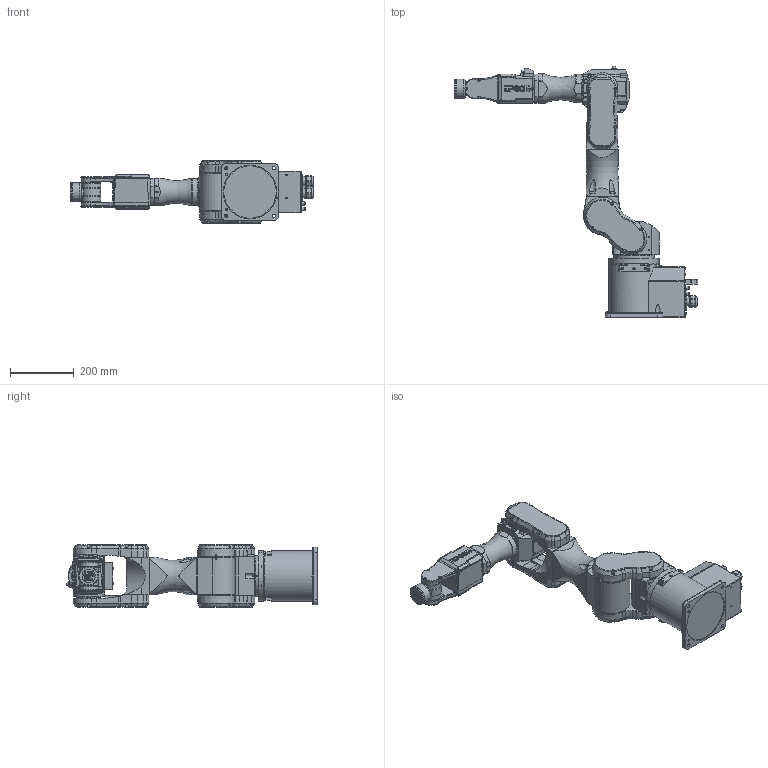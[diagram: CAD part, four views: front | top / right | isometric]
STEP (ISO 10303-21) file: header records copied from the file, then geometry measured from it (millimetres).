
FILE_DESCRIPTION(/* description */ ('STEP AP203'),/* implementation_level */ '2;1');
FILE_NAME(/* name */ 'C4-B901S',/* time_stamp */ '2025-09-25T09:45:40+02:00',/* author */ ('License CC BY-ND 4.0'),/* organization */ ('CADENAS'),/* preprocessor_version */ 'ST-DEVELOPER v19.3',/* originating_system */ 'PARTsolutions',/* authorisation */ ' ');
FILE_SCHEMA (('CONFIG_CONTROL_DESIGN'));
Products named in the file (8): C4-B901S; Base C4SR; J1 C4CB; J2 C4L (3); J3 C4L (3); J4 C4L (3); J5 C4; J6 C4
Assembly tree (7 placements, depth 2):
  C4-B901S
    Base C4SR
    J1 C4CB
    J2 C4L (3)
    J3 C4L (3)
    J4 C4L (3)
    J5 C4
    J6 C4
Bounding box: 765.3 x 790.5 x 198 mm (x, y, z)
Volume: 18601884.8 mm3; surface area: 1010542.6 mm2
Topology: 7 solids, 7 shells, 2258 faces, 5739 edges, 3663 vertices
Faces by surface type: plane 1102, cylinder 684, cone 294, torus 171, sphere 7
Full cylindrical faces by diameter (mm): 1 x18, 2.459 x2, 3.242 x15, 3.3 x5, 4 x4, 4.5 x3, 5 x1, 5.5 x13, 5.6 x5, 5.8 x7, 6 x5, 6.647 x6, 6.8 x1, 6.86 x1, 6.9 x37, 7 x12, 7.647 x2, 8 x16, 8.376 x1, 10 x5, 11 x4, 12 x7, 13 x10, 14 x9, 22 x1, 30 x4, 31 x1, 34 x2, 36 x2, 38.5 x1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
Entity records: 81019 total; most frequent: CARTESIAN_POINT 13850, DIRECTION 10915, ORIENTED_EDGE 10268, EDGE_CURVE 5134, AXIS2_PLACEMENT_3D 4255, VERTEX_POINT 3524, FACE_BOUND 2940, EDGE_LOOP 2881
